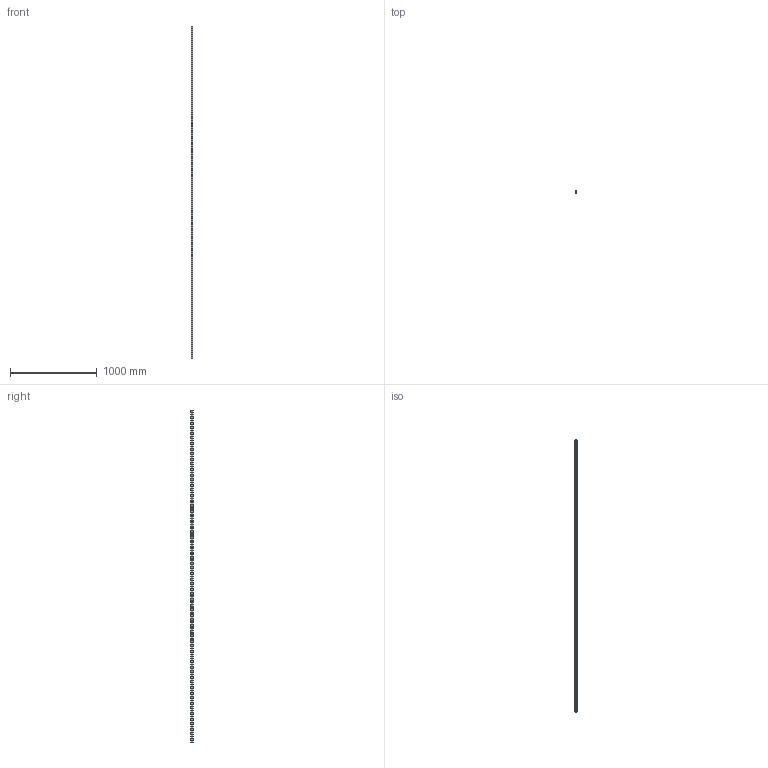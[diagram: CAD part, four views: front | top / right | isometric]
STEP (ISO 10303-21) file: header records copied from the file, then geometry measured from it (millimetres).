
FILE_DESCRIPTION((''),'2;1');
FILE_NAME('R160520431_3836_ASM','2018-08-08T15:43:11',('ac91sw'),(''),'CREO PARAMETRIC BY PTC INC, 2017260','CREO PARAMETRIC BY PTC INC, 2017260','');
FILE_SCHEMA(('CONFIG_CONTROL_DESIGN'));
Length unit declared in the file: millimetre
Products named in the file (3): R160520431_3836_ADK; R160520431_3836_1; R160520431_3836_ASM
Assembly tree (65 placements, depth 2):
  R160520431_3836_ASM
    R160520431_3836_ADK  x64
    R160520431_3836_1
Bounding box: 23 x 24.25 x 3836 mm (x, y, z)
Volume: 1568237.8 mm3; surface area: 434111.3 mm2
Topology: 65 solids, 65 shells, 608 faces, 1242 edges, 828 vertices
Faces by surface type: cylinder 388, plane 220
Entity records: 11560 total; most frequent: DIRECTION 2236, CARTESIAN_POINT 1864, ORIENTED_EDGE 1728, AXIS2_PLACEMENT_3D 948, EDGE_CURVE 864, VERTEX_POINT 576, EDGE_LOOP 548, CIRCLE 524
